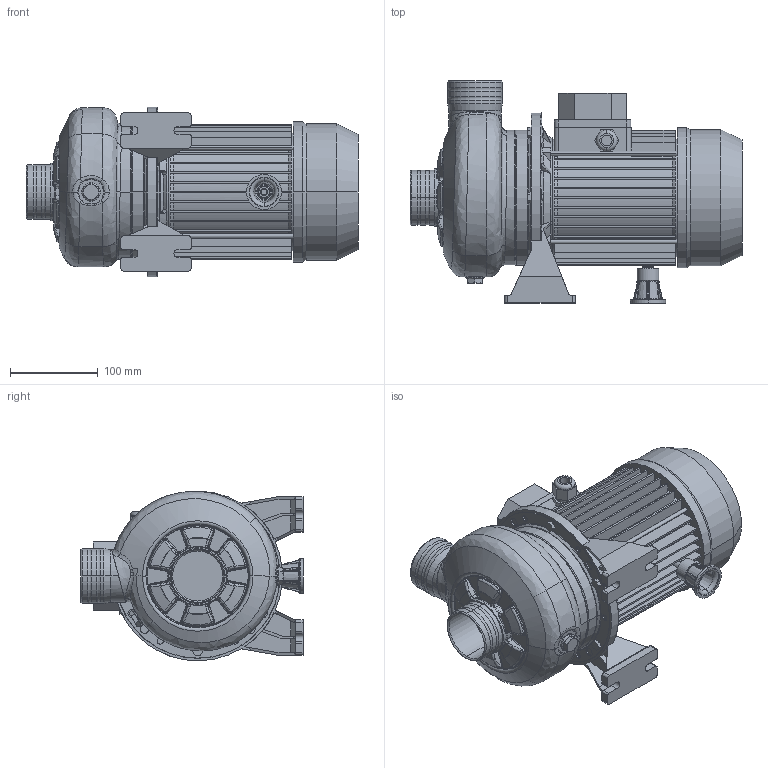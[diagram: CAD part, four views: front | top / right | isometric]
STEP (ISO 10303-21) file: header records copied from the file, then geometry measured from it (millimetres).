
FILE_DESCRIPTION((''),'2;1');
FILE_NAME('DWO_200_IE2_ASM','2011-07-06T',('Utente'),('"Ebara Pumps Europe +39.444.706811"'),'PRO/ENGINEER BY PARAMETRIC TECHNOLOGY CORPORATION, 2009360','PRO/ENGINEER BY PARAMETRIC TECHNOLOGY CORPORATION, 2009360','');
FILE_SCHEMA(('AUTOMOTIVE_DESIGN { 1 0 10303 214 1 1 1 1 }'));
Length unit declared in the file: millimetre
Products named in the file (12): MEC_80X120_IE2; 80596; 251420990; 62036; 62035; 10053; 76006; 40032; 20992_ASM; 72011; 72028; DWO_200_IE2_ASM
Assembly tree (13 placements, depth 3):
  DWO_200_IE2_ASM
    MEC_80X120_IE2
    80596
    20992_ASM
      251420990
      62036
      62035
      10053
      76006  x2
      40032  x2
    72011
    72028
Bounding box: 378 x 253 x 192.9 mm (x, y, z)
Volume: 2775541.3 mm3; surface area: 669352.6 mm2
Topology: 12 solids, 12 shells, 1366 faces, 3279 edges, 1984 vertices
Faces by surface type: plane 477, cylinder 280, bspline 272, torus 168, cone 143, sphere 22, extrusion 4
Entity records: 67988 total; most frequent: CARTESIAN_POINT 25225, ORIENTED_EDGE 6426, DIRECTION 5839, EDGE_CURVE 3213, PRESENTATION_STYLE_ASSIGNMENT 3166, STYLED_ITEM 3166, CURVE_STYLE 3157, AXIS2_PLACEMENT_3D 2346
